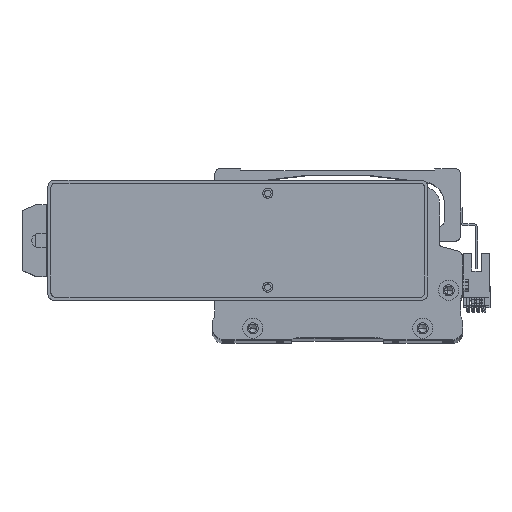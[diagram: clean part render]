
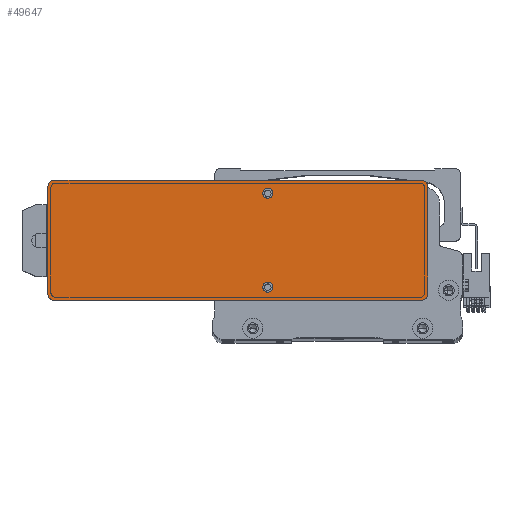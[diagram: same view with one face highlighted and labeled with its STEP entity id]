
A CAD part, top view. The second image highlights one B-rep face of the part: STEP entity #49647.
In plain terms, the highlighted planar face has unit normal (0, 0, 1) as drawn and (0, 0, -1) by its records, which use the part's own axes.
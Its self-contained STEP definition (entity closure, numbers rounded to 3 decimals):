
#589 = VERTEX_POINT ( 'NONE', #5006 ) ;
#911 = VECTOR ( 'NONE', #15805, 1000. ) ;
#1709 = FACE_BOUND ( 'NONE', #13401, .T. ) ;
#2274 = ORIENTED_EDGE ( 'NONE', *, *, #65289, .F. ) ;
#2323 = DIRECTION ( 'NONE',  ( 0., 0., -1. ) ) ;
#3975 = CARTESIAN_POINT ( 'NONE',  ( -15., -23.5, 0. ) ) ;
#5006 = CARTESIAN_POINT ( 'NONE',  ( -92., -30., 0. ) ) ;
#6262 = CIRCLE ( 'NONE', #21401, 3. ) ;
#7337 = EDGE_CURVE ( 'NONE', #32240, #56013, #65074, .T. ) ;
#7360 = VERTEX_POINT ( 'NONE', #45533 ) ;
#7495 = PLANE ( 'NONE',  #41576 ) ;
#7558 = CARTESIAN_POINT ( 'NONE',  ( 95., 27., 0. ) ) ;
#7776 = DIRECTION ( 'NONE',  ( 0., 0., 1. ) ) ;
#8664 = VERTEX_POINT ( 'NONE', #9419 ) ;
#8707 = EDGE_CURVE ( 'NONE', #7360, #50648, #53191, .T. ) ;
#9244 = CIRCLE ( 'NONE', #14341, 2.5 ) ;
#9419 = CARTESIAN_POINT ( 'NONE',  ( -95., -27., 0. ) ) ;
#9694 = ORIENTED_EDGE ( 'NONE', *, *, #22311, .F. ) ;
#10241 = DIRECTION ( 'NONE',  ( -1., 0., 0. ) ) ;
#11173 = CARTESIAN_POINT ( 'NONE',  ( -12.5, 23.5, 0. ) ) ;
#11234 = CARTESIAN_POINT ( 'NONE',  ( 95., -27., 0. ) ) ;
#11712 = DIRECTION ( 'NONE',  ( 0., 0., -1. ) ) ;
#11825 = EDGE_CURVE ( 'NONE', #589, #8664, #38317, .T. ) ;
#13401 = EDGE_LOOP ( 'NONE', ( #43974, #19569 ) ) ;
#14341 = AXIS2_PLACEMENT_3D ( 'NONE', #54822, #17469, #61109 ) ;
#15441 = EDGE_LOOP ( 'NONE', ( #56891, #29518 ) ) ;
#15805 = DIRECTION ( 'NONE',  ( 0., -1., 0. ) ) ;
#16304 = VERTEX_POINT ( 'NONE', #59445 ) ;
#17190 = CIRCLE ( 'NONE', #35376, 3. ) ;
#17336 = CARTESIAN_POINT ( 'NONE',  ( 92., -30., 0. ) ) ;
#17469 = DIRECTION ( 'NONE',  ( 0., 0., -1. ) ) ;
#17903 = VERTEX_POINT ( 'NONE', #11173 ) ;
#18459 = CARTESIAN_POINT ( 'NONE',  ( -92., 27., 0. ) ) ;
#19092 = DIRECTION ( 'NONE',  ( -1., 0., 0. ) ) ;
#19569 = ORIENTED_EDGE ( 'NONE', *, *, #76639, .F. ) ;
#20103 = AXIS2_PLACEMENT_3D ( 'NONE', #3975, #47605, #10241 ) ;
#20434 = AXIS2_PLACEMENT_3D ( 'NONE', #18459, #62133, #24711 ) ;
#21401 = AXIS2_PLACEMENT_3D ( 'NONE', #33019, #76558, #39304 ) ;
#21770 = DIRECTION ( 'NONE',  ( 0., 0., -1. ) ) ;
#21804 = ORIENTED_EDGE ( 'NONE', *, *, #7337, .F. ) ;
#22311 = EDGE_CURVE ( 'NONE', #16304, #75460, #67568, .T. ) ;
#22896 = CIRCLE ( 'NONE', #39807, 2.5 ) ;
#24402 = ORIENTED_EDGE ( 'NONE', *, *, #47053, .F. ) ;
#24711 = DIRECTION ( 'NONE',  ( 1., 0., 0. ) ) ;
#25448 = CARTESIAN_POINT ( 'NONE',  ( 95., -30., 0. ) ) ;
#25640 = CARTESIAN_POINT ( 'NONE',  ( 95., 30., 0. ) ) ;
#25863 = CIRCLE ( 'NONE', #20434, 3. ) ;
#29518 = ORIENTED_EDGE ( 'NONE', *, *, #44279, .F. ) ;
#30799 = LINE ( 'NONE', #25448, #62017 ) ;
#30829 = ORIENTED_EDGE ( 'NONE', *, *, #57551, .T. ) ;
#32028 = CARTESIAN_POINT ( 'NONE',  ( -92., 30., 0. ) ) ;
#32240 = VERTEX_POINT ( 'NONE', #11234 ) ;
#33019 = CARTESIAN_POINT ( 'NONE',  ( 92., -27., 0. ) ) ;
#33905 = VECTOR ( 'NONE', #57796, 1000. ) ;
#34982 = FACE_OUTER_BOUND ( 'NONE', #80030, .T. ) ;
#35048 = CARTESIAN_POINT ( 'NONE',  ( 92., 27., 0. ) ) ;
#35376 = AXIS2_PLACEMENT_3D ( 'NONE', #35048, #78564, #41249 ) ;
#35730 = VERTEX_POINT ( 'NONE', #67561 ) ;
#38080 = DIRECTION ( 'NONE',  ( 1., 0., 0. ) ) ;
#38317 = CIRCLE ( 'NONE', #47723, 3. ) ;
#38481 = EDGE_CURVE ( 'NONE', #32240, #70433, #6262, .T. ) ;
#38926 = CARTESIAN_POINT ( 'NONE',  ( 0., 0., 0. ) ) ;
#39304 = DIRECTION ( 'NONE',  ( 1., 0., 0. ) ) ;
#39730 = CARTESIAN_POINT ( 'NONE',  ( -15., 23.5, 0. ) ) ;
#39807 = AXIS2_PLACEMENT_3D ( 'NONE', #39730, #2323, #45980 ) ;
#40901 = CARTESIAN_POINT ( 'NONE',  ( -95., -30., 0. ) ) ;
#41249 = DIRECTION ( 'NONE',  ( 1., 0., 0. ) ) ;
#41576 = AXIS2_PLACEMENT_3D ( 'NONE', #38926, #7776, #51419 ) ;
#42108 = EDGE_CURVE ( 'NONE', #48275, #17903, #9244, .T. ) ;
#43974 = ORIENTED_EDGE ( 'NONE', *, *, #42108, .F. ) ;
#44279 = EDGE_CURVE ( 'NONE', #50648, #7360, #69249, .T. ) ;
#45533 = CARTESIAN_POINT ( 'NONE',  ( -17.5, -23.5, 0. ) ) ;
#45654 = ORIENTED_EDGE ( 'NONE', *, *, #38481, .T. ) ;
#45980 = DIRECTION ( 'NONE',  ( -1., 0., 0. ) ) ;
#47053 = EDGE_CURVE ( 'NONE', #35730, #8664, #69188, .T. ) ;
#47605 = DIRECTION ( 'NONE',  ( 0., 0., -1. ) ) ;
#47723 = AXIS2_PLACEMENT_3D ( 'NONE', #59126, #21770, #65419 ) ;
#48275 = VERTEX_POINT ( 'NONE', #57289 ) ;
#49064 = CARTESIAN_POINT ( 'NONE',  ( -15., -23.5, 0. ) ) ;
#49536 = FACE_BOUND ( 'NONE', #15441, .T. ) ;
#49647 = ADVANCED_FACE ( 'NONE', ( #1709, #34982, #49536 ), #7495, .F. ) ;
#50379 = CARTESIAN_POINT ( 'NONE',  ( -12.5, -23.5, 0. ) ) ;
#50648 = VERTEX_POINT ( 'NONE', #50379 ) ;
#51011 = VECTOR ( 'NONE', #19092, 1000. ) ;
#51419 = DIRECTION ( 'NONE',  ( 1., 0., 0. ) ) ;
#53191 = CIRCLE ( 'NONE', #20103, 2.5 ) ;
#54822 = CARTESIAN_POINT ( 'NONE',  ( -15., 23.5, 0. ) ) ;
#55335 = DIRECTION ( 'NONE',  ( -1., 0., 0. ) ) ;
#55743 = ORIENTED_EDGE ( 'NONE', *, *, #76400, .T. ) ;
#56013 = VERTEX_POINT ( 'NONE', #7558 ) ;
#56891 = ORIENTED_EDGE ( 'NONE', *, *, #8707, .F. ) ;
#57289 = CARTESIAN_POINT ( 'NONE',  ( -17.5, 23.5, 0. ) ) ;
#57551 = EDGE_CURVE ( 'NONE', #16304, #56013, #17190, .T. ) ;
#57796 = DIRECTION ( 'NONE',  ( 0., 1., 0. ) ) ;
#59126 = CARTESIAN_POINT ( 'NONE',  ( -92., -27., 0. ) ) ;
#59445 = CARTESIAN_POINT ( 'NONE',  ( 92., 30., 0. ) ) ;
#61109 = DIRECTION ( 'NONE',  ( -1., 0., 0. ) ) ;
#62017 = VECTOR ( 'NONE', #38080, 1000. ) ;
#62133 = DIRECTION ( 'NONE',  ( 0., 0., -1. ) ) ;
#65074 = LINE ( 'NONE', #70322, #33905 ) ;
#65289 = EDGE_CURVE ( 'NONE', #589, #70433, #30799, .T. ) ;
#65419 = DIRECTION ( 'NONE',  ( 1., 0., 0. ) ) ;
#67561 = CARTESIAN_POINT ( 'NONE',  ( -95., 27., 0. ) ) ;
#67568 = LINE ( 'NONE', #25640, #51011 ) ;
#69188 = LINE ( 'NONE', #40901, #911 ) ;
#69249 = CIRCLE ( 'NONE', #72501, 2.5 ) ;
#70322 = CARTESIAN_POINT ( 'NONE',  ( 95., -30., 0. ) ) ;
#70433 = VERTEX_POINT ( 'NONE', #17336 ) ;
#72501 = AXIS2_PLACEMENT_3D ( 'NONE', #49064, #11712, #55335 ) ;
#75460 = VERTEX_POINT ( 'NONE', #32028 ) ;
#76400 = EDGE_CURVE ( 'NONE', #35730, #75460, #25863, .T. ) ;
#76558 = DIRECTION ( 'NONE',  ( 0., 0., -1. ) ) ;
#76639 = EDGE_CURVE ( 'NONE', #17903, #48275, #22896, .T. ) ;
#78564 = DIRECTION ( 'NONE',  ( 0., 0., -1. ) ) ;
#80030 = EDGE_LOOP ( 'NONE', ( #21804, #45654, #2274, #80501, #24402, #55743, #9694, #30829 ) ) ;
#80501 = ORIENTED_EDGE ( 'NONE', *, *, #11825, .T. ) ;
